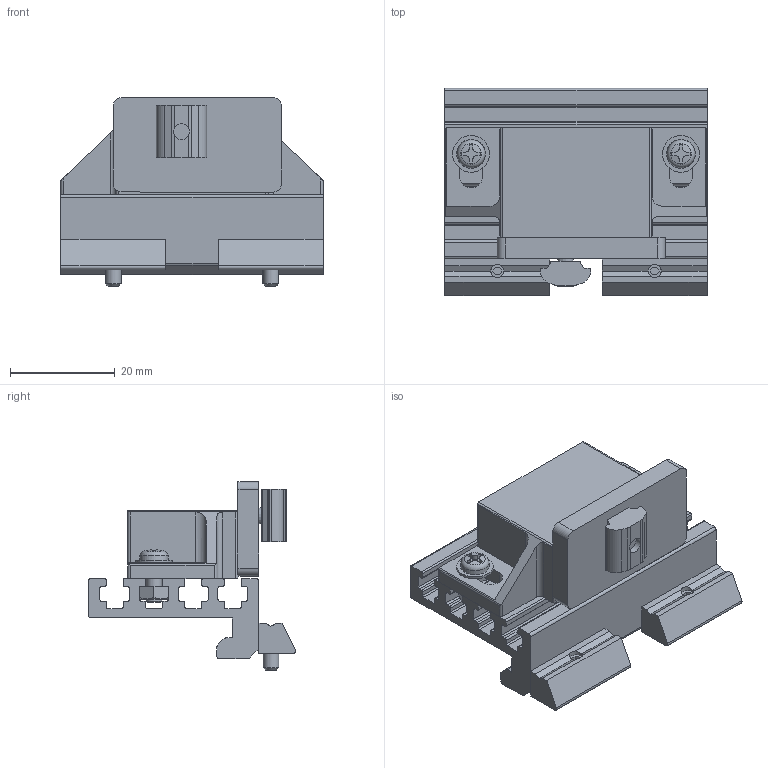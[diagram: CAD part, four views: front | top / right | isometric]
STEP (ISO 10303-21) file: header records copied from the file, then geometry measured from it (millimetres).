
FILE_DESCRIPTION(('STEP AP214'),'1');
FILE_NAME('MC40-SF.stp','2022-06-06T09:03:52',(' '),(' '),'Spatial InterOp 3D',' ',' ');
FILE_SCHEMA(('AUTOMOTIVE_DESIGN { 1 0 10303 214 1 1 1 1 }'));
Length unit declared in the file: millimetre
Products named in the file (19): MC40-NF; MC40; ___; ねじ: 皿頭 - M3.0 x 8.0; NF25-M3; MC4P3; M3ナット; M3×8NNS; M3PW; MC40-SF; ST3S-L50; NW40; M3*8押しねじ
Assembly tree (18 placements, depth 4):
  MC40-SF
    MC40-NF
      MC40
      ___
        ねじ: 皿頭 - M3.0 x 8.0
        NF25-M3
        MC4P3
      M3ナット
      M3ナット
      M3×8NNS
      M3PW
      M3×8NNS
      M3PW
    ST3S-L50
      ST3S-L50
      NW40
      NW40
      M3*8押しねじ
      M3*8押しねじ
Bounding box: 50 x 39.49 x 36 mm (x, y, z)
Volume: 22901.7 mm3; surface area: 15774.2 mm2
Topology: 15 solids, 15 shells, 360 faces, 957 edges, 630 vertices
Faces by surface type: plane 223, cylinder 120, cone 13, torus 2, sphere 2
Full cylindrical faces by diameter (mm): 2.5 x2, 3 x7, 3.2 x2, 3.4 x1, 7 x2
Entity records: 14454 total; most frequent: CARTESIAN_POINT 2092, DIRECTION 1950, ORIENTED_EDGE 1840, EDGE_CURVE 920, AXIS2_PLACEMENT_3D 670, VERTEX_POINT 624, LINE 610, VECTOR 610
